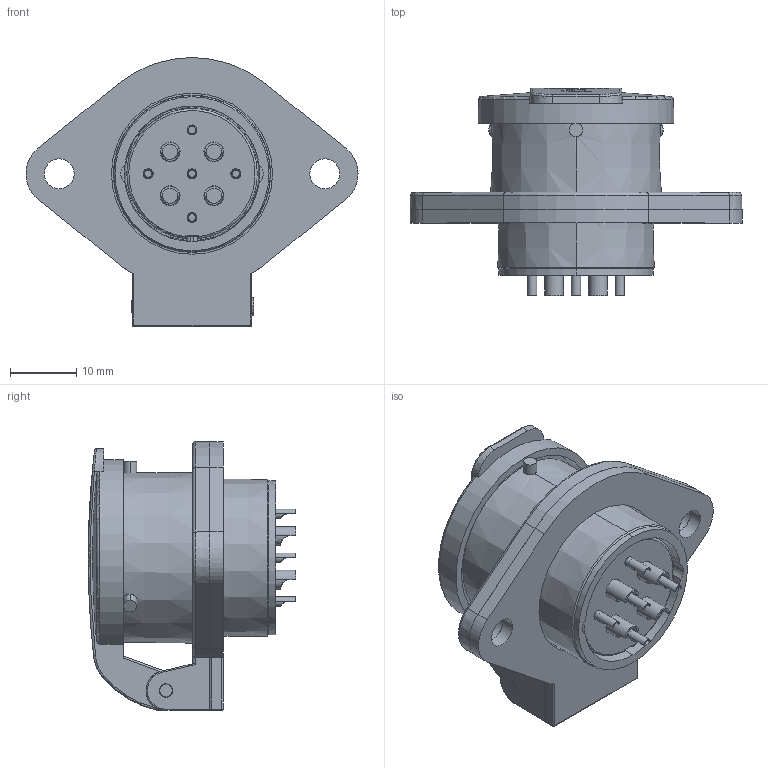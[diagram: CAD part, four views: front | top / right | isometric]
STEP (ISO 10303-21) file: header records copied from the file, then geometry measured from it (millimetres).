
FILE_DESCRIPTION((''),'2;1');
FILE_NAME('PRT0002','2016-11-07T',('Administrator'),(''),'PRO/ENGINEER BY PARAMETRIC TECHNOLOGY CORPORATION, 2015240','PRO/ENGINEER BY PARAMETRIC TECHNOLOGY CORPORATION, 2015240','');
FILE_SCHEMA(('CONFIG_CONTROL_DESIGN'));
Length unit declared in the file: millimetre
Products named in the file (1): PRT0002
Bounding box: 50 x 31.25 x 40.5 mm (x, y, z)
Volume: 14760.8 mm3; surface area: 15874.5 mm2
Topology: 2 solids, 2 shells, 531 faces, 1381 edges, 905 vertices
Faces by surface type: plane 222, cylinder 210, cone 45, torus 22, sphere 20, extrusion 10, bspline 2
Entity records: 18182 total; most frequent: CARTESIAN_POINT 5070, ORIENTED_EDGE 2750, DIRECTION 2708, EDGE_CURVE 1375, AXIS2_PLACEMENT_3D 1043, VERTEX_POINT 905, VECTOR 622, LINE 612
